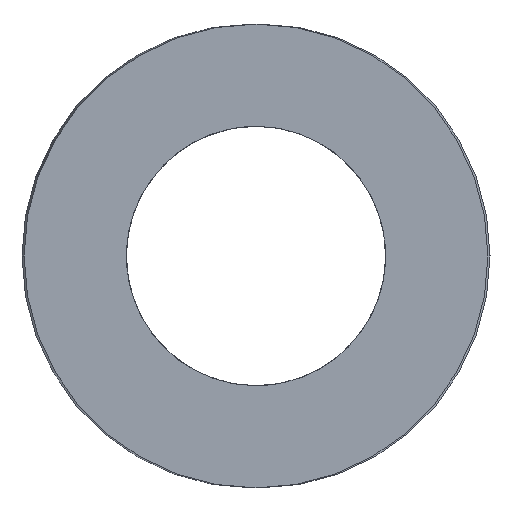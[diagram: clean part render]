
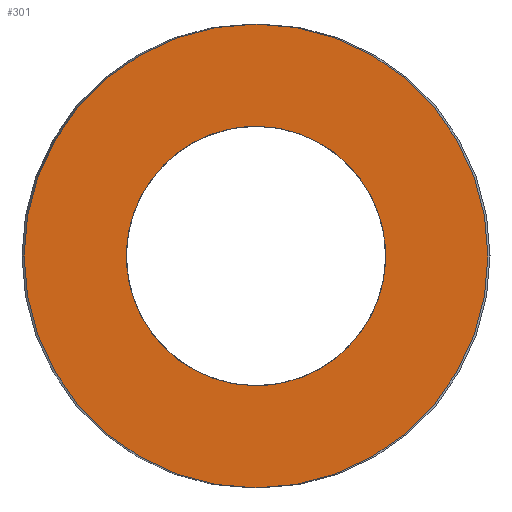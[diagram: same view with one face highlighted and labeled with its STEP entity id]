
A CAD part, left-side view. The second image highlights one B-rep face of the part: STEP entity #301.
In plain terms, the highlighted planar face has unit normal (-1, 0, 0).
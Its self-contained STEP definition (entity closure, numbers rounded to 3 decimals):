
#63=CARTESIAN_POINT('Vertex',(0.,12.25,0.)) ;
#77=CARTESIAN_POINT('Vertex',(0.,-12.25,0.)) ;
#80=CARTESIAN_POINT('Axis2P3D Location',(0.,0.,0.)) ;
#97=CARTESIAN_POINT('Axis2P3D Location',(0.,0.,0.)) ;
#232=CARTESIAN_POINT('Axis2P3D Location',(0.,6.125,0.)) ;
#242=CARTESIAN_POINT('Control Point',(0.,0.,-6.85)) ;
#243=CARTESIAN_POINT('Control Point',(0.,0.641,-6.85)) ;
#244=CARTESIAN_POINT('Control Point',(0.,1.282,-6.775)) ;
#245=CARTESIAN_POINT('Control Point',(0.,1.912,-6.625)) ;
#246=CARTESIAN_POINT('Control Point',(0.,3.124,-6.181)) ;
#247=CARTESIAN_POINT('Control Point',(0.,4.2,-5.468)) ;
#248=CARTESIAN_POINT('Control Point',(0.,4.694,-5.051)) ;
#249=CARTESIAN_POINT('Control Point',(0.,5.576,-4.107)) ;
#250=CARTESIAN_POINT('Control Point',(0.,6.215,-2.986)) ;
#251=CARTESIAN_POINT('Control Point',(0.,6.468,-2.39)) ;
#252=CARTESIAN_POINT('Control Point',(0.,6.829,-1.151)) ;
#253=CARTESIAN_POINT('Control Point',(0.,6.894,0.139)) ;
#254=CARTESIAN_POINT('Control Point',(0.,6.851,0.784)) ;
#255=CARTESIAN_POINT('Control Point',(0.,6.614,2.053)) ;
#256=CARTESIAN_POINT('Control Point',(0.,6.09,3.233)) ;
#257=CARTESIAN_POINT('Control Point',(0.,5.76,3.79)) ;
#258=CARTESIAN_POINT('Control Point',(0.,4.977,4.816)) ;
#259=CARTESIAN_POINT('Control Point',(0.,3.977,5.633)) ;
#260=CARTESIAN_POINT('Control Point',(0.,3.432,5.981)) ;
#261=CARTESIAN_POINT('Control Point',(0.,2.436,6.462)) ;
#262=CARTESIAN_POINT('Control Point',(0.,1.368,6.735)) ;
#263=CARTESIAN_POINT('Control Point',(0.,0.915,6.812)) ;
#264=CARTESIAN_POINT('Control Point',(0.,0.457,6.85)) ;
#265=CARTESIAN_POINT('Control Point',(0.,0.,6.85)) ;
#266=CARTESIAN_POINT('Vertex',(0.,0.,-6.85)) ;
#268=CARTESIAN_POINT('Vertex',(0.,0.,6.85)) ;
#272=CARTESIAN_POINT('Control Point',(0.,0.,6.85)) ;
#273=CARTESIAN_POINT('Control Point',(0.,-0.641,6.85)) ;
#274=CARTESIAN_POINT('Control Point',(0.,-1.282,6.775)) ;
#275=CARTESIAN_POINT('Control Point',(0.,-1.912,6.625)) ;
#276=CARTESIAN_POINT('Control Point',(0.,-3.124,6.181)) ;
#277=CARTESIAN_POINT('Control Point',(0.,-4.2,5.468)) ;
#278=CARTESIAN_POINT('Control Point',(0.,-4.694,5.051)) ;
#279=CARTESIAN_POINT('Control Point',(0.,-5.576,4.107)) ;
#280=CARTESIAN_POINT('Control Point',(0.,-6.215,2.986)) ;
#281=CARTESIAN_POINT('Control Point',(0.,-6.468,2.39)) ;
#282=CARTESIAN_POINT('Control Point',(0.,-6.829,1.151)) ;
#283=CARTESIAN_POINT('Control Point',(0.,-6.894,-0.139)) ;
#284=CARTESIAN_POINT('Control Point',(0.,-6.851,-0.784)) ;
#285=CARTESIAN_POINT('Control Point',(0.,-6.614,-2.053)) ;
#286=CARTESIAN_POINT('Control Point',(0.,-6.09,-3.233)) ;
#287=CARTESIAN_POINT('Control Point',(0.,-5.76,-3.79)) ;
#288=CARTESIAN_POINT('Control Point',(0.,-4.977,-4.816)) ;
#289=CARTESIAN_POINT('Control Point',(0.,-3.977,-5.633)) ;
#290=CARTESIAN_POINT('Control Point',(0.,-3.432,-5.981)) ;
#291=CARTESIAN_POINT('Control Point',(0.,-2.436,-6.462)) ;
#292=CARTESIAN_POINT('Control Point',(0.,-1.368,-6.735)) ;
#293=CARTESIAN_POINT('Control Point',(0.,-0.915,-6.812)) ;
#294=CARTESIAN_POINT('Control Point',(0.,-0.457,-6.85)) ;
#295=CARTESIAN_POINT('Control Point',(0.,0.,-6.85)) ;
#81=DIRECTION('Axis2P3D Direction',(1.,-0.,0.)) ;
#98=DIRECTION('Axis2P3D Direction',(1.,-0.,0.)) ;
#233=DIRECTION('Axis2P3D Direction',(-1.,0.,0.)) ;
#234=DIRECTION('Axis2P3D XDirection',(0.,1.,0.)) ;
#82=AXIS2_PLACEMENT_3D('Circle Axis2P3D',#80,#81,$) ;
#99=AXIS2_PLACEMENT_3D('Circle Axis2P3D',#97,#98,$) ;
#235=AXIS2_PLACEMENT_3D('Plane Axis2P3D',#232,#233,#234) ;
#238=ORIENTED_EDGE('',*,*,#84,.T.) ;
#239=ORIENTED_EDGE('',*,*,#101,.T.) ;
#298=ORIENTED_EDGE('',*,*,#270,.T.) ;
#299=ORIENTED_EDGE('',*,*,#296,.T.) ;
#300=FACE_BOUND('',#297,.T.) ;
#301=ADVANCED_FACE('392-B25-051',(#240,#300),#236,.T.) ;
#241=B_SPLINE_CURVE_WITH_KNOTS('',5,(#242,#243,#244,#245,#246,#247,#248,#249,#250,#251,#252,#253,#254,#255,#256,#257,#258,#259,#260,#261,#262,#263,#264,#265),.UNSPECIFIED.,.F.,.U.,(6,3,3,3,3,3,3,6),(0.,4.533,9.066,13.6,18.133,22.666,27.199,30.433),.UNSPECIFIED.) ;
#271=B_SPLINE_CURVE_WITH_KNOTS('',5,(#272,#273,#274,#275,#276,#277,#278,#279,#280,#281,#282,#283,#284,#285,#286,#287,#288,#289,#290,#291,#292,#293,#294,#295),.UNSPECIFIED.,.F.,.U.,(6,3,3,3,3,3,3,6),(0.,4.533,9.066,13.6,18.133,22.666,27.199,30.433),.UNSPECIFIED.) ;
#83=CIRCLE('generated circle',#82,12.25) ;
#100=CIRCLE('generated circle',#99,12.25) ;
#84=EDGE_CURVE('',#64,#78,#83,.F.) ;
#101=EDGE_CURVE('',#78,#64,#100,.F.) ;
#270=EDGE_CURVE('',#267,#269,#241,.T.) ;
#296=EDGE_CURVE('',#269,#267,#271,.T.) ;
#237=EDGE_LOOP('',(#238,#239)) ;
#297=EDGE_LOOP('',(#298,#299)) ;
#240=FACE_OUTER_BOUND('',#237,.T.) ;
#236=PLANE('Plane',#235) ;
#64=VERTEX_POINT('',#63) ;
#78=VERTEX_POINT('',#77) ;
#267=VERTEX_POINT('',#266) ;
#269=VERTEX_POINT('',#268) ;
